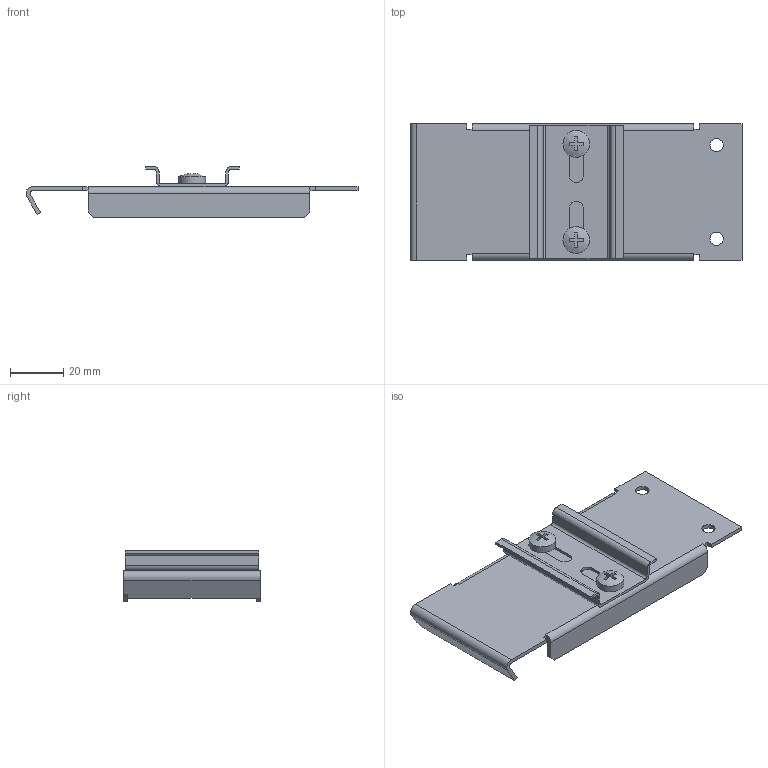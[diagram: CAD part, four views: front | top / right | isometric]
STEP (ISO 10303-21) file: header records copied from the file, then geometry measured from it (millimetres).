
FILE_DESCRIPTION((''),'2;1');
FILE_NAME('C:\Users\rahns\Desktop\Sylvia Info´s\Dateien für Vertrieb\SLZ11\md3_slz11.stp','2012-06-08T12:41:51',('rahns'),(''),'Autodesk Inventor 2009','Autodesk Inventor 2009','');
FILE_SCHEMA(('AUTOMOTIVE_DESIGN { 1 0 10303 214 1 1 1 1 }'));
Length unit declared in the file: millimetre
Products named in the file (4): 293.00 Accessories; EW-293.930; EW-293.931; SCREW M5x8
Assembly tree (4 placements, depth 2):
  293.00 Accessories
    EW-293.930
    EW-293.931
    SCREW M5x8  x2
Bounding box: 124.22 x 51 x 19 mm (x, y, z)
Volume: 15260.2 mm3; surface area: 22619.2 mm2
Topology: 4 solids, 4 shells, 130 faces, 341 edges, 225 vertices
Faces by surface type: plane 90, cylinder 26, bspline 8, cone 4, sphere 2
Full cylindrical faces by diameter (mm): 4 x2, 5 x2, 6 x2, 10 x2
Entity records: 3619 total; most frequent: CARTESIAN_POINT 763, DIRECTION 567, ORIENTED_EDGE 556, EDGE_CURVE 278, VECTOR 207, LINE 207, VERTEX_POINT 192, AXIS2_PLACEMENT_3D 180
